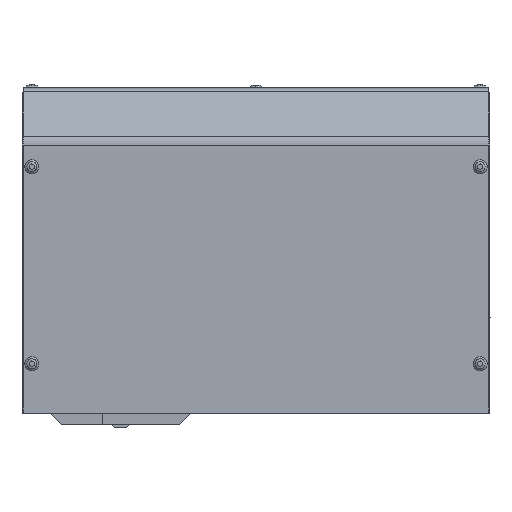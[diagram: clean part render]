
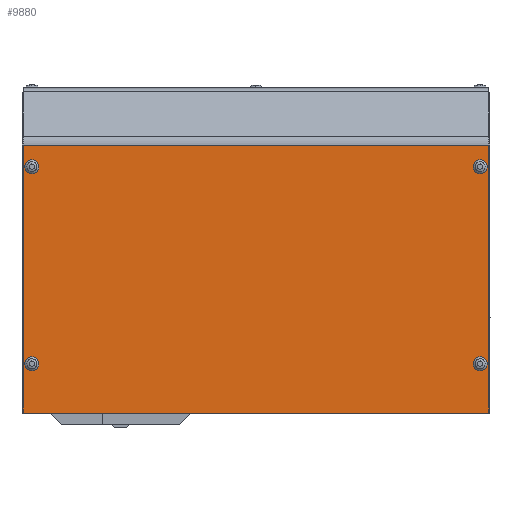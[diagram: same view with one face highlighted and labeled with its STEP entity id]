
A CAD part, top view. The second image highlights one B-rep face of the part: STEP entity #9880.
In plain terms, the highlighted planar face has unit normal (0, 0, 1).
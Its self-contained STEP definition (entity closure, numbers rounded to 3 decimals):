
#9797=CARTESIAN_POINT('',(71.749,46.845,164.983));
#9798=DIRECTION('',(0.0,0.0,1.0));
#9799=DIRECTION('',(0.0,-1.0,0.0));
#9800=AXIS2_PLACEMENT_3D('',#9797,#9798,#9799);
#9801=PLANE('',#9800);
#9802=CARTESIAN_POINT('',(166.249,100.595,164.983));
#9803=VERTEX_POINT('',#9802);
#9804=CARTESIAN_POINT('',(-22.751,100.595,164.983));
#9805=VERTEX_POINT('',#9804);
#9806=CARTESIAN_POINT('',(166.249,100.595,164.983));
#9807=DIRECTION('',(-1.0,0.0,0.0));
#9808=VECTOR('',#9807,189.);
#9809=LINE('',#9806,#9808);
#9810=EDGE_CURVE('',#9803,#9805,#9809,.T.);
#9811=ORIENTED_EDGE('',*,*,#9810,.T.);
#9812=CARTESIAN_POINT('',(-22.751,-8.148,164.983));
#9813=VERTEX_POINT('',#9812);
#9814=CARTESIAN_POINT('',(-22.751,-8.148,164.983));
#9815=DIRECTION('',(0.0,1.0,0.0));
#9816=VECTOR('',#9815,108.743);
#9817=LINE('',#9814,#9816);
#9818=EDGE_CURVE('',#9813,#9805,#9817,.T.);
#9819=ORIENTED_EDGE('',*,*,#9818,.F.);
#9820=CARTESIAN_POINT('',(166.249,-8.148,164.983));
#9821=VERTEX_POINT('',#9820);
#9822=CARTESIAN_POINT('',(166.249,-8.148,164.983));
#9823=DIRECTION('',(-1.0,0.0,0.0));
#9824=VECTOR('',#9823,189.);
#9825=LINE('',#9822,#9824);
#9826=EDGE_CURVE('',#9821,#9813,#9825,.T.);
#9827=ORIENTED_EDGE('',*,*,#9826,.F.);
#9828=CARTESIAN_POINT('',(166.249,100.595,164.983));
#9829=DIRECTION('',(0.0,-1.0,0.0));
#9830=VECTOR('',#9829,108.743);
#9831=LINE('',#9828,#9830);
#9832=EDGE_CURVE('',#9803,#9821,#9831,.T.);
#9833=ORIENTED_EDGE('',*,*,#9832,.F.);
#9834=EDGE_LOOP('',(#9811,#9819,#9827,#9833));
#9835=FACE_OUTER_BOUND('',#9834,.T.);
#9836=CARTESIAN_POINT('',(162.749,89.002,164.983));
#9837=VERTEX_POINT('',#9836);
#9838=CARTESIAN_POINT('',(162.749,91.852,164.983));
#9839=DIRECTION('',(0.0,0.0,-1.0));
#9840=DIRECTION('',(0.0,-1.0,0.0));
#9841=AXIS2_PLACEMENT_3D('',#9838,#9839,#9840);
#9842=CIRCLE('',#9841,2.85);
#9843=EDGE_CURVE('',#9837,#9837,#9842,.T.);
#9844=ORIENTED_EDGE('',*,*,#9843,.T.);
#9845=EDGE_LOOP('',(#9844));
#9846=FACE_BOUND('',#9845,.T.);
#9847=CARTESIAN_POINT('',(-19.251,89.002,164.983));
#9848=VERTEX_POINT('',#9847);
#9849=CARTESIAN_POINT('',(-19.251,91.852,164.983));
#9850=DIRECTION('',(0.0,0.0,-1.0));
#9851=DIRECTION('',(0.0,-1.0,0.0));
#9852=AXIS2_PLACEMENT_3D('',#9849,#9850,#9851);
#9853=CIRCLE('',#9852,2.85);
#9854=EDGE_CURVE('',#9848,#9848,#9853,.T.);
#9855=ORIENTED_EDGE('',*,*,#9854,.T.);
#9856=EDGE_LOOP('',(#9855));
#9857=FACE_BOUND('',#9856,.T.);
#9858=CARTESIAN_POINT('',(162.749,9.002,164.983));
#9859=VERTEX_POINT('',#9858);
#9860=CARTESIAN_POINT('',(162.749,11.852,164.983));
#9861=DIRECTION('',(0.0,0.0,-1.0));
#9862=DIRECTION('',(0.0,-1.0,0.0));
#9863=AXIS2_PLACEMENT_3D('',#9860,#9861,#9862);
#9864=CIRCLE('',#9863,2.85);
#9865=EDGE_CURVE('',#9859,#9859,#9864,.T.);
#9866=ORIENTED_EDGE('',*,*,#9865,.T.);
#9867=EDGE_LOOP('',(#9866));
#9868=FACE_BOUND('',#9867,.T.);
#9869=CARTESIAN_POINT('',(-19.251,9.002,164.983));
#9870=VERTEX_POINT('',#9869);
#9871=CARTESIAN_POINT('',(-19.251,11.852,164.983));
#9872=DIRECTION('',(0.0,0.0,-1.0));
#9873=DIRECTION('',(0.0,-1.0,0.0));
#9874=AXIS2_PLACEMENT_3D('',#9871,#9872,#9873);
#9875=CIRCLE('',#9874,2.85);
#9876=EDGE_CURVE('',#9870,#9870,#9875,.T.);
#9877=ORIENTED_EDGE('',*,*,#9876,.T.);
#9878=EDGE_LOOP('',(#9877));
#9879=FACE_BOUND('',#9878,.T.);
#9880=ADVANCED_FACE('',(#9835,#9846,#9857,#9868,#9879),#9801,.T.);
